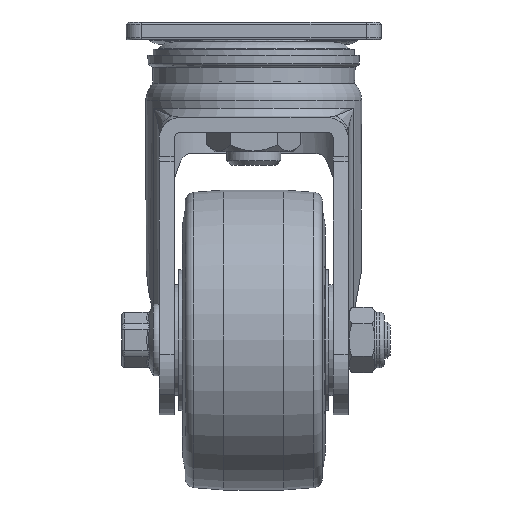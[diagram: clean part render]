
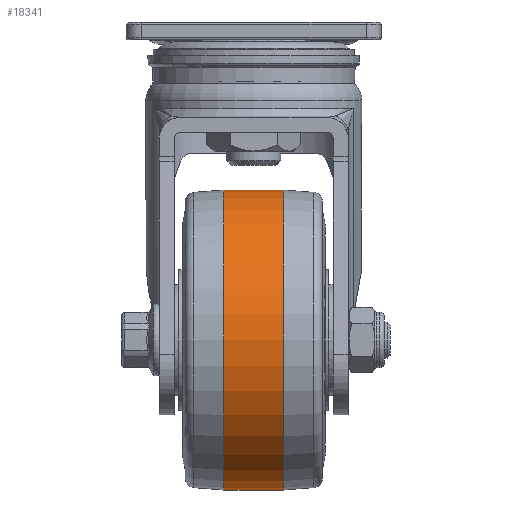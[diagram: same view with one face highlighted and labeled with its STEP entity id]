
A CAD part, left-side view. The second image highlights one B-rep face of the part: STEP entity #18341.
In plain terms, the highlighted cylindrical face has radius 50 mm (diameter 100 mm), a full revolution.
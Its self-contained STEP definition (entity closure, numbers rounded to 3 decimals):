
#2205=LINE('',#29424,#4073);
#4073=VECTOR('',#21673,50.);
#5375=CYLINDRICAL_SURFACE('',#19391,50.);
#5940=FACE_OUTER_BOUND('',#6943,.T.);
#6943=EDGE_LOOP('',(#14469,#14470,#14471,#14472));
#7690=CIRCLE('',#19390,50.);
#7691=CIRCLE('',#19392,50.);
#8599=VERTEX_POINT('',#29418);
#8600=VERTEX_POINT('',#29422);
#10710=EDGE_CURVE('',#8599,#8599,#7690,.T.);
#10712=EDGE_CURVE('',#8600,#8600,#7691,.T.);
#10713=EDGE_CURVE('',#8600,#8599,#2205,.T.);
#14469=ORIENTED_EDGE('',*,*,#10712,.F.);
#14470=ORIENTED_EDGE('',*,*,#10713,.T.);
#14471=ORIENTED_EDGE('',*,*,#10710,.T.);
#14472=ORIENTED_EDGE('',*,*,#10713,.F.);
#18341=ADVANCED_FACE('',(#5940),#5375,.T.);
#19390=AXIS2_PLACEMENT_3D('',#29419,#21666,#21667);
#19391=AXIS2_PLACEMENT_3D('',#29421,#21669,#21670);
#19392=AXIS2_PLACEMENT_3D('',#29423,#21671,#21672);
#21666=DIRECTION('center_axis',(0.,-1.,0.));
#21667=DIRECTION('ref_axis',(0.174,0.,-0.985));
#21669=DIRECTION('center_axis',(0.,-1.,0.));
#21670=DIRECTION('ref_axis',(0.985,0.,0.174));
#21671=DIRECTION('center_axis',(0.,-1.,0.));
#21672=DIRECTION('ref_axis',(0.174,0.,-0.985));
#21673=DIRECTION('',(0.,1.,0.));
#29418=CARTESIAN_POINT('',(-99.24,10.,-96.285));
#29419=CARTESIAN_POINT('Origin',(-50.,10.,-87.6));
#29421=CARTESIAN_POINT('Origin',(-50.,0.,
-87.6));
#29422=CARTESIAN_POINT('',(-99.24,-10.,-96.285));
#29423=CARTESIAN_POINT('Origin',(-50.,-10.,-87.6));
#29424=CARTESIAN_POINT('',(-99.24,0.,-96.285));
